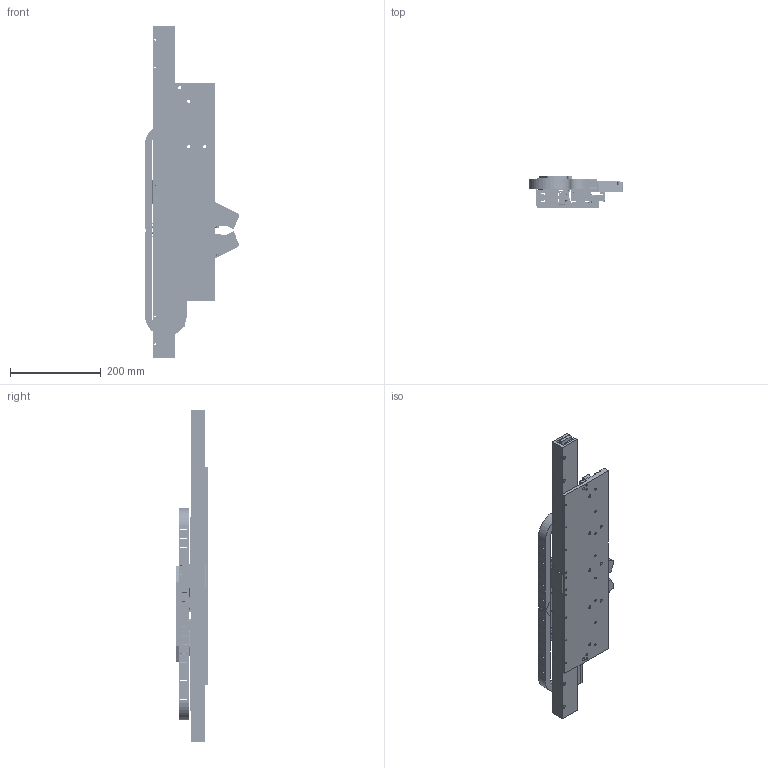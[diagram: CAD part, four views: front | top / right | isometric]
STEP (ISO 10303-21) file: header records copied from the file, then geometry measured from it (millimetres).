
FILE_DESCRIPTION (( 'STEP AP214' ), '1' );
FILE_NAME ('KAOS OEM-L-460-3 AXIS ASSEMBLY.STEP', '2011-10-07T20:46:41', ( '' ), ( '' ), 'SwSTEP 2.0', 'SolidWorks 2010', '' );
FILE_SCHEMA (( 'AUTOMOTIVE_DESIGN' ));
Length unit declared in the file: inch
Products named in the file (50): 100178 TRILOGY 210 ONE-PIECE TRACK_28.8; 100001 SCREW, CAP_M3X10; 100184 TRILOGY LM210 MOTOR COIL_210-3A; 100001 SCREW, CAP_M4X14; 100002 SCREW, FLAT, X-RECESS_M4X6; 102994 KAOS OEM MOTOR MOUNT_004 FOR 210-3; 100421sm KAOS OEM STAGE ASSEMBLY; 100010 DOWEL PIN_250X750; BOSCH 15MM 2-ROW LONG CAR; 100434sm KAOS OEM STAGE; BOSCH 15MM 2-ROW RAIL_190; 102993 KAOS OEM CARRIAGE PLATE_RIGHT; 102990aoc RIGHT CARRIAGE ASSEMBLY_FOR 210-3; 100099 Rubber Dome Stop_small; 102523-001 REXROTH BEARING BLOCK, STD 20MM, 4-HOLE_DEFAULT; 100239 RGS-S SCALE UPDATED_LBS 640; 100010 DOWEL PIN_156X1000; 100002 SCREW, FLAT, X-RECESS_M3X6; SLAPON IGUS (07-10 to 20)_mid travel; 100007 HEX NUT_M5; 100001 SCREW, CAP_#6-32x250; 100534 Renishaw RGH41_DIGITAL 1 1MDSUB; 102996 KAOS OEM ENCODER ADAPTOR; 102990aoc ENCODER SUBASSY; 100429 E-CHAIN END PLATE; 100001 SCREW, CAP_M4X30; 100001 SCREW, CAP_M5X10; 100001 SCREW, CAP_M3X8; 100001 SCREW, CAP_M5X12; 100438sm STOP BLOCK; 100438sm STOP BLOCK ASSEMBLY; 100214 GIB WIRE, 18AWG_160; 100414 SILICONE STOCK BUMPER_375X300; 100013 SCREW, SET_M3X4; 100092 REN RGP22S; 100013 SCREW, SET_M2.5X4; 100827 OEM-L LIMIT MAGNET MOUNT; 100829 OEM-L LIMIT MAGNET MOUNT ASSEMBLY_DOT DOWN; 100829 OEM-L LIMIT MAGNET MOUNT ASSEMBLY; 100465 040 DIA ALUMINUM WIRE_460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
Assembly tree (140 placements, depth 4):
  KAOS OEM-L-460-3 AXIS ASSEMBLY
    100829 OEM-L LIMIT MAGNET MOUNT ASSEMBLY_DOT DOWN
      100092 REN RGP22S
      100827 OEM-L LIMIT MAGNET MOUNT
      100013 SCREW, SET_M2.5X4  x2
    100239 RGS-S SCALE UPDATED_LBS 640
    102990aoc RIGHT CARRIAGE ASSEMBLY_FOR 210-3
      102523-001 REXROTH BEARING BLOCK, STD 20MM, 4-HOLE_DEFAULT
      100001 SCREW, CAP_M5X12  x3
      100001 SCREW, CAP_M3X10  x5
      100001 SCREW, CAP_M5X10  x4
      100001 SCREW, CAP_#6-32x250  x5
      100010 DOWEL PIN_156X1000
      100002 SCREW, FLAT, X-RECESS_M3X6  x4
      100001 SCREW, CAP_M4X14  x2
      100214 GIB WIRE, 18AWG_160
      BOSCH 15MM 2-ROW RAIL_190
      SLAPON IGUS (07-10 to 20)_mid travel
      100184 TRILOGY LM210 MOTOR COIL_210-3A
      100414 SILICONE STOCK BUMPER_375X300
      100013 SCREW, SET_M3X4
      100099 Rubber Dome Stop_small  x2
      102994 KAOS OEM MOTOR MOUNT_004 FOR 210-3
      102990aoc ENCODER SUBASSY
        102996 KAOS OEM ENCODER ADAPTOR
        100001 SCREW, CAP_M3X8  x2
        100534 Renishaw RGH41_DIGITAL 1 1MDSUB
      102993 KAOS OEM CARRIAGE PLATE_RIGHT
    100438sm STOP BLOCK ASSEMBLY  x2
      100001 SCREW, CAP_M5X12
      100438sm STOP BLOCK
      100007 HEX NUT_M5
    100433 BASE PLATE_460
    100001 SCREW, CAP_M5X12  x8
    100001 SCREW, CAP_M4X30  x8
    100465 040 DIA ALUMINUM WIRE_460  x2
    100421sm KAOS OEM STAGE ASSEMBLY
      100010 DOWEL PIN_250X750  x2
      100013 SCREW, SET_M3X4  x6
      100001 SCREW, CAP_M3X10  x8
      100434sm KAOS OEM STAGE
      BOSCH 15MM 2-ROW LONG CAR  x2
    100002 SCREW, FLAT, X-RECESS_M4X6  x2
    100429 E-CHAIN END PLATE
    102990aoc LEFT CARRIAGE ASSEMBLY_FOR 210-3
      SLAPON IGUS (07-10 to 20)_mid travel
      100001 SCREW, CAP_M4X14
      100001 SCREW, CAP_M3X10  x5
      100001 SCREW, CAP_#6-32x250  x5
      102990aoc ENCODER SUBASSY
        102996 KAOS OEM ENCODER ADAPTOR
        100001 SCREW, CAP_M3X8  x2
        100534 Renishaw RGH41_DIGITAL 1 1MDSUB
      100002 SCREW, FLAT, X-RECESS_M3X6  x4
      100001 SCREW, CAP_M5X10  x3
      102993 KAOS OEM CARRIAGE PLATE_LEFT
      100001 SCREW, CAP_M5X20
      100414 SILICONE STOCK BUMPER_375X300
      100001 SCREW, CAP_M5X12  x3
      BOSCH 15MM 2-ROW RAIL_190
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Bounding box: 207.42 x 71.13 x 731.52 mm (x, y, z)
Volume: 2603510.4 mm3; surface area: 883581.4 mm2
Topology: 140 solids, 140 shells, 4835 faces, 12152 edges, 7845 vertices
Faces by surface type: plane 2813, cylinder 1323, cone 551, bspline 124, torus 18, sphere 6
Entity records: 88403 total; most frequent: CARTESIAN_POINT 19124, DIRECTION 12631, ORIENTED_EDGE 12426, EDGE_CURVE 6213, VECTOR 4233, LINE 4233, AXIS2_PLACEMENT_3D 4199, VERTEX_POINT 4080
